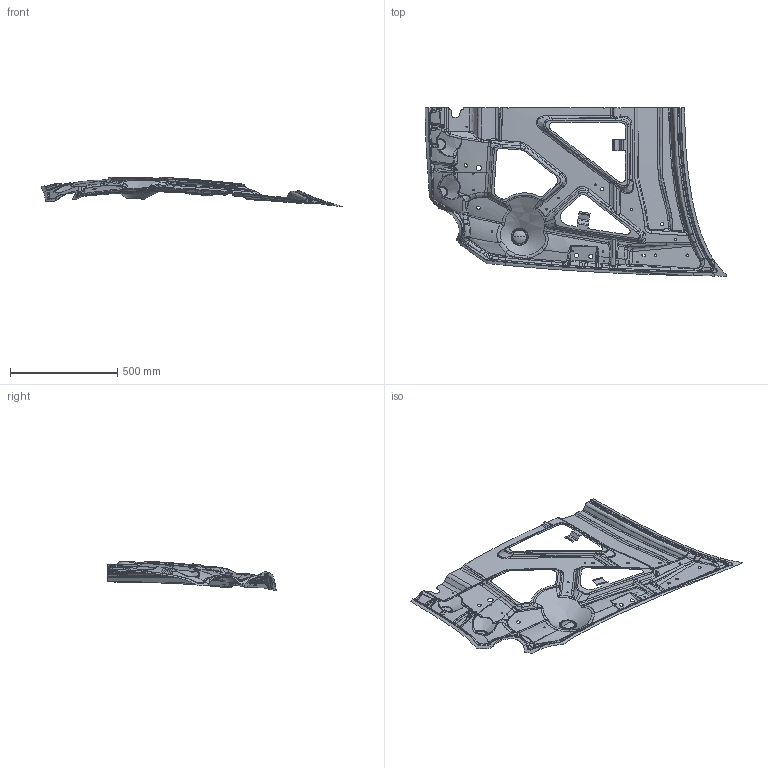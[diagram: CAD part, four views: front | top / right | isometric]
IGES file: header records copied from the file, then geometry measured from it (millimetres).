
Start section: START IGES DATA FILE
Global section: file name: Hoodinner.igs; native system: DYNAFORM VER.3.1,DYNAFORM IGES TRANSLATOR, ENGINEERING TECHNOLOGY ASSOCIATES, INC.; preprocessor: 980406; date: 040324.205227; units: millimetre
Bounding box: 1403.49 x 783.45 x 138.07 mm (x, y, z)
Surface area: 839243 mm2 (no closed solid volume)
Topology: 0 solids, 0 shells, 639 faces, 7704 edges, 7697 vertices
Faces by surface type: bspline 639
